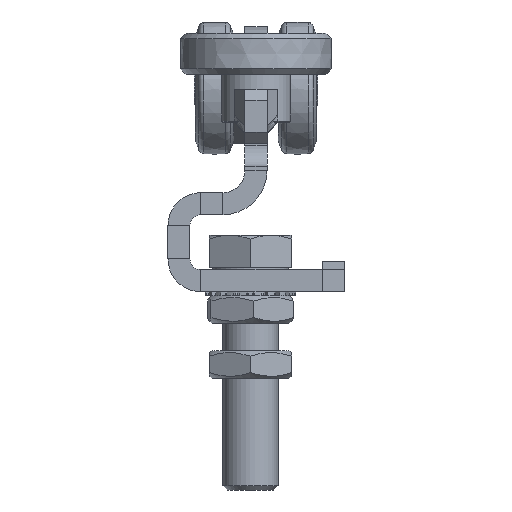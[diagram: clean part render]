
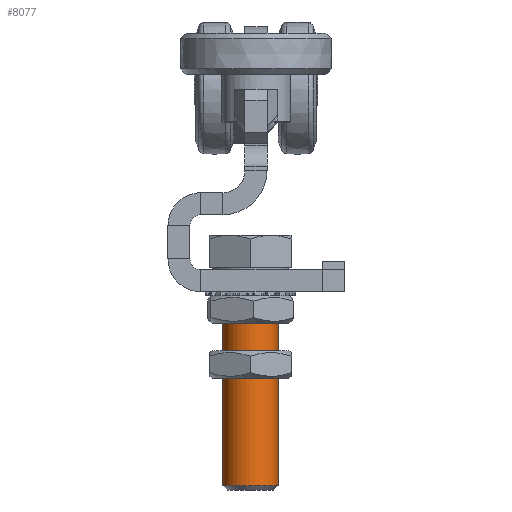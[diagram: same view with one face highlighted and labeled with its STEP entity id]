
A CAD part, front view. The second image highlights one B-rep face of the part: STEP entity #8077.
In plain terms, the highlighted cylindrical face has radius 10 mm (diameter 20 mm), a full revolution.
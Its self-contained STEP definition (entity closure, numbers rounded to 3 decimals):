
#517=FACE_BOUND('',#1652,.T.);
#660=CYLINDRICAL_SURFACE('',#8925,10.);
#1081=FACE_OUTER_BOUND('',#1651,.T.);
#1651=EDGE_LOOP('',(#7136));
#1652=EDGE_LOOP('',(#7137));
#3233=CIRCLE('',#8923,10.);
#3235=CIRCLE('',#8926,10.);
#3928=VERTEX_POINT('',#15020);
#3930=VERTEX_POINT('',#15025);
#5011=EDGE_CURVE('',#3928,#3928,#3233,.T.);
#5013=EDGE_CURVE('',#3930,#3930,#3235,.T.);
#7136=ORIENTED_EDGE('',*,*,#5013,.T.);
#7137=ORIENTED_EDGE('',*,*,#5011,.F.);
#8077=ADVANCED_FACE('',(#1081,#517),#660,.T.);
#8923=AXIS2_PLACEMENT_3D('',#15021,#11083,#11084);
#8925=AXIS2_PLACEMENT_3D('',#15024,#11087,#11088);
#8926=AXIS2_PLACEMENT_3D('',#15026,#11089,#11090);
#11083=DIRECTION('center_axis',(1.,0.,0.));
#11084=DIRECTION('ref_axis',(0.,-1.,0.));
#11087=DIRECTION('center_axis',(1.,0.,0.));
#11088=DIRECTION('ref_axis',(0.,1.,0.));
#11089=DIRECTION('center_axis',(1.,0.,0.));
#11090=DIRECTION('ref_axis',(0.,1.,0.));
#15020=CARTESIAN_POINT('',(78.466,10.,0.));
#15021=CARTESIAN_POINT('Origin',(78.466,0.,0.));
#15024=CARTESIAN_POINT('Origin',(43.75,0.,0.));
#15025=CARTESIAN_POINT('',(7.5,10.,0.));
#15026=CARTESIAN_POINT('Origin',(7.5,0.,0.));
